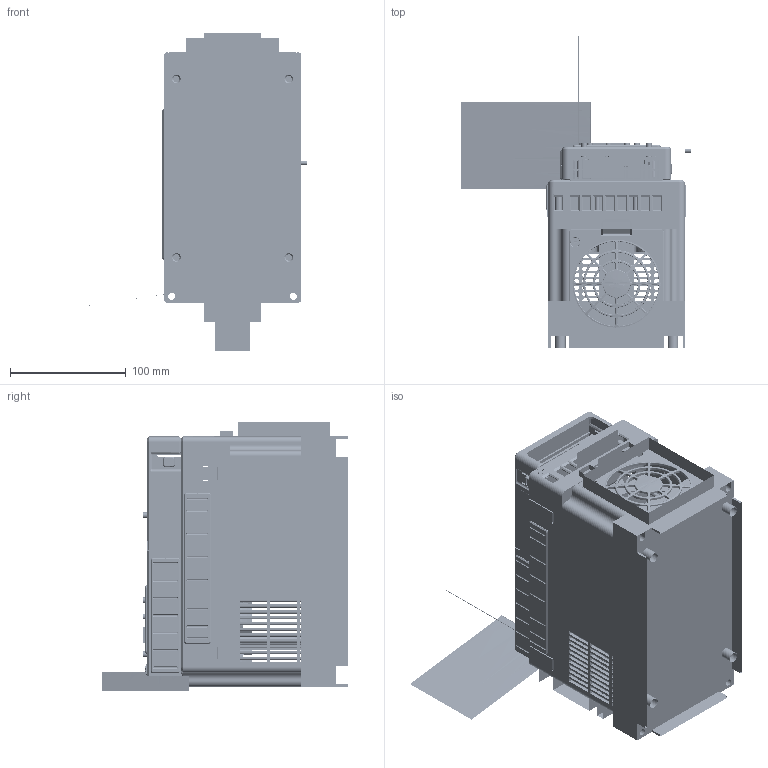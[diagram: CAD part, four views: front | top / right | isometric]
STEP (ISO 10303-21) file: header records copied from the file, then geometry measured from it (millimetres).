
FILE_DESCRIPTION((''),'2;1');
FILE_NAME('1-NVF200-7-5-GROUP_ASM_54_ASM_ASM','2021-06-23T15:31:51',('zhongfl'),(''),'CREO PARAMETRIC BY PTC INC, 2020044','CREO PARAMETRIC BY PTC INC, 2020044','');
FILE_SCHEMA(('CONFIG_CONTROL_DESIGN','SHAPE_APPEARANCE_LAYERS_GROUPS'));
Products named in the file (38): 1-NVF200-7-5-GROUP_SKEL0001_15_; MANIFOLD_SOLID_BREP_88012_6_4; NVF200-7-5-DIZUO_93_ASM_1_ASM_3_ASM; M4X6TLS-1228_1_1; 5ZTD-022-445-DIZUO_ASM_21_ASM_A_ASM; 5ZTD-022-445-B_ASM_2_ASM; 8ZTD-355-046-XIANG_101_33_28; M3-NUT_3_1_1_1; PRODUCT_228829_22_2_2; NVF200-7-5-XIANG_ASM_7_ASM_3_AS_ASM; 8ZTD-312-131-GAI_41_17; PC-PLATE-5_8; PVC-PLATE-4_6; 5ZTD-355-084-B_ASM_7_ASM; NVF200-7-5-DIBAN_45_1; SCREW_4_1; NVF200-7-5-DIBAN_ASM_2_ASM_1_ASM; MANIFOLD_SOLID_BREP_1564_1_1_1; MANIFOLD_SOLID_BREP_1565_1_1_1; MANIFOLD_SOLID_BREP_1566_1_1_1; MANIFOLD_SOLID_BREP_1567_1_1_1; MANIFOLD_SOLID_BREP_1568_1_1_1; BREP_1_3_1_1; CHINT-74-10_ASM_3_ASM_1_ASM_1_ASM; CHINT-74-10_ASM_ASM_1_ASM_1_ASM; KWY-PLASTIC_27_1_1_2_1_1_1; ZHIZ-4D5-17_2_1; 8ZTD_325_266-__16; NVF200-7-5-JX_ASM_23_ASM_7_ASM; RUBBER-COVER_2_2; NVF200-7-5-BIAOP_32_2; PVC-BRABD-2_6_2_2; PVC-KEY-BRAND_7_2_2; NVF200-7-5-JY_ASM_8_ASM_2_ASM; GB-T9074-4-M4-12_1_1; NVF200-7-5-LD_ASM_9_ASM_1_ASM; 1-NVF200-7-5-GROUP_ASM_54_ASM_6_ASM; 1-NVF200-7-5-GROUP_ASM_54_ASM_ASM
Assembly tree (49 placements, depth 7):
  1-NVF200-7-5-GROUP_ASM_54_ASM_ASM
    1-NVF200-7-5-GROUP_ASM_54_ASM_6_ASM
      1-NVF200-7-5-GROUP_SKEL0001_15_
      NVF200-7-5-JX_ASM_23_ASM_7_ASM
        5ZTD-022-445-B_ASM_2_ASM
          5ZTD-022-445-DIZUO_ASM_21_ASM_A_ASM
            NVF200-7-5-DIZUO_93_ASM_1_ASM_3_ASM
              MANIFOLD_SOLID_BREP_88012_6_4
            M4X6TLS-1228_1_1  x2
        5ZTD-355-084-B_ASM_7_ASM
          NVF200-7-5-XIANG_ASM_7_ASM_3_AS_ASM
            8ZTD-355-046-XIANG_101_33_28
            M3-NUT_3_1_1_1  x4
            PRODUCT_228829_22_2_2
          8ZTD-312-131-GAI_41_17
          PC-PLATE-5_8
          PVC-PLATE-4_6
        NVF200-7-5-DIBAN_ASM_2_ASM_1_ASM
          NVF200-7-5-DIBAN_45_1
          SCREW_4_1
        CHINT-74-10_ASM_ASM_1_ASM_1_ASM
          CHINT-74-10_ASM_3_ASM_1_ASM_1_ASM
            MANIFOLD_SOLID_BREP_1564_1_1_1
            MANIFOLD_SOLID_BREP_1565_1_1_1
            MANIFOLD_SOLID_BREP_1566_1_1_1
            MANIFOLD_SOLID_BREP_1567_1_1_1
            MANIFOLD_SOLID_BREP_1568_1_1_1
            BREP_1_3_1_1
        KWY-PLASTIC_27_1_1_2_1_1_1  x6
        ZHIZ-4D5-17_2_1
        8ZTD_325_266-__16
      NVF200-7-5-JY_ASM_8_ASM_2_ASM
        RUBBER-COVER_2_2
        NVF200-7-5-BIAOP_32_2
        PVC-BRABD-2_6_2_2
        PVC-KEY-BRAND_7_2_2
      NVF200-7-5-LD_ASM_9_ASM_1_ASM
        GB-T9074-4-M4-12_1_1  x4
Bounding box: 197.98 x 268.98 x 275 mm (x, y, z)
Volume: 405042.6 mm3; surface area: 577606.5 mm2
Topology: 34 solids, 97 shells, 9039 faces, 25781 edges, 17100 vertices
Faces by surface type: plane 6053, cylinder 1941, torus 322, bspline 248, cone 234, extrusion 222, sphere 19
Entity records: 360497 total; most frequent: CARTESIAN_POINT 91722, ORIENTED_EDGE 47702, DIRECTION 42966, EDGE_CURVE 24022, VECTOR 17570, LINE 17348, VERTEX_POINT 15932, AXIS2_PLACEMENT_3D 12698
